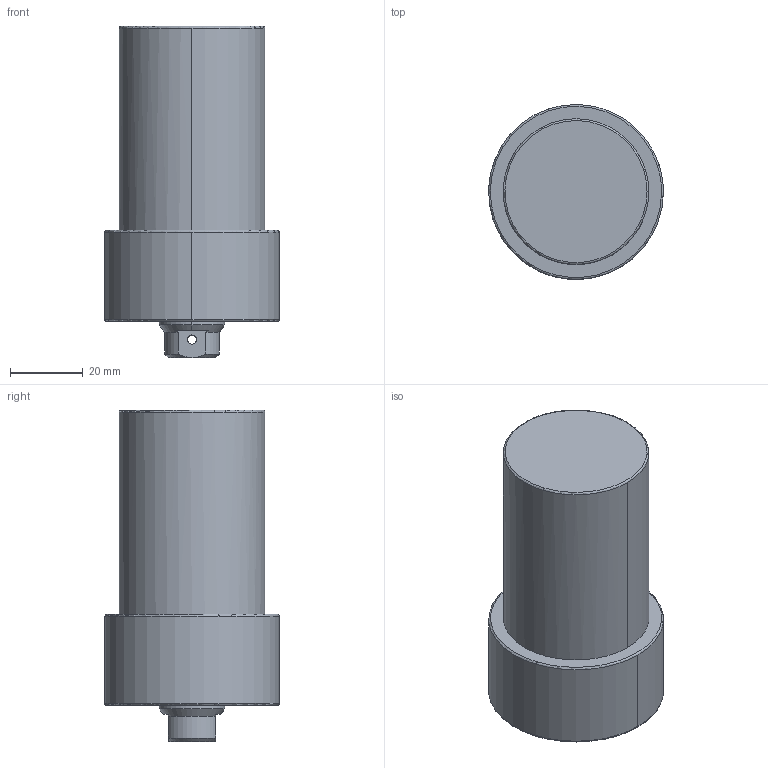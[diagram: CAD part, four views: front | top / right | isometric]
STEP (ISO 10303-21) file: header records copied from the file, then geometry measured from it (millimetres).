
FILE_DESCRIPTION((' '),'2;1');
FILE_NAME( 'TLLU-040GB-045.STEP.stp', '2025-10-24T16:37:12', (' '), ('--- Datakit www.datakit.com---'), ' Datakit CrossCadWare V2024.1 Dec 21 2023', 'Mastercam 2025', ' ');
FILE_SCHEMA(('AUTOMOTIVE_DESIGN { 1 0 10303 214 1 1 1 1 }'));
Length unit declared in the file: millimetre
Products named in the file (1): TLLU-040GB-045
Bounding box: 47.99 x 48 x 91 mm (x, y, z)
Volume: 115592.8 mm3; surface area: 16050 mm2
Topology: 1 solids, 1 shells, 66 faces, 200 edges, 133 vertices
Faces by surface type: cylinder 26, cone 24, plane 10, torus 6
Entity records: 3000 total; most frequent: CARTESIAN_POINT 1126, DIRECTION 428, ORIENTED_EDGE 380, EDGE_CURVE 190, AXIS2_PLACEMENT_3D 187, VERTEX_POINT 133, CIRCLE 120, EDGE_LOOP 77
